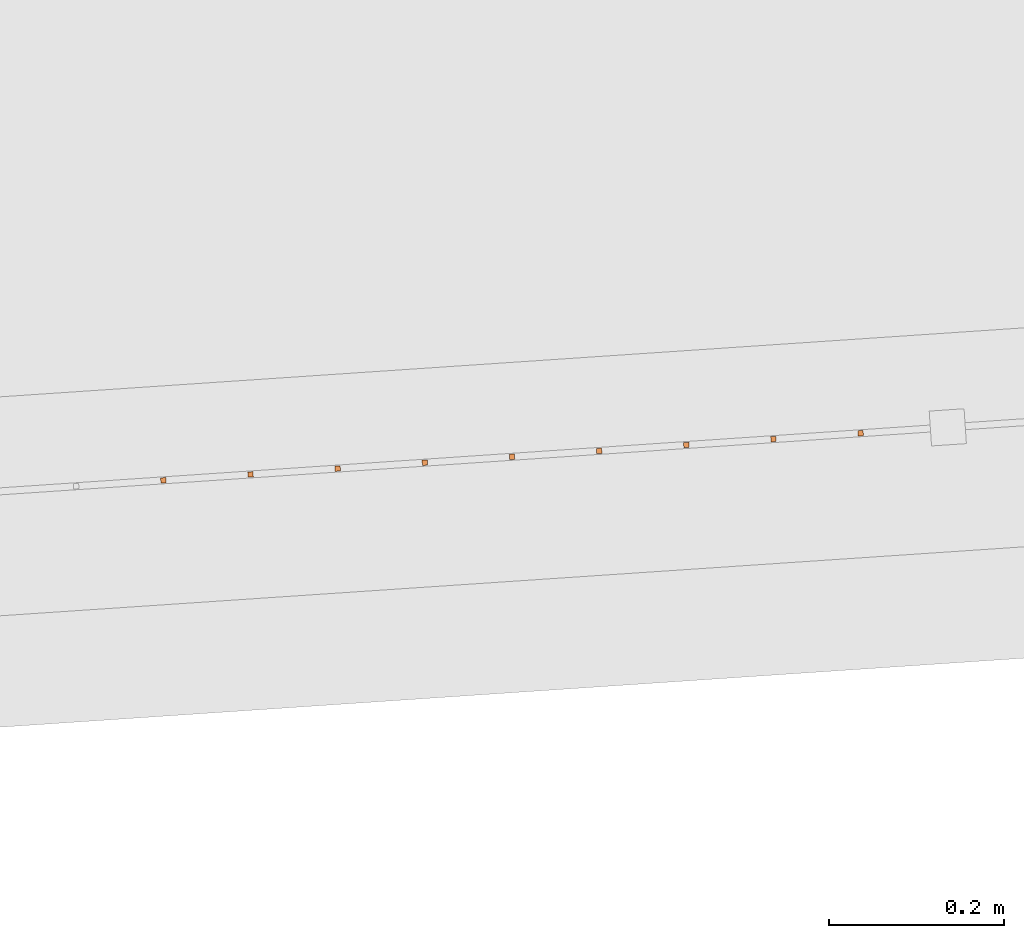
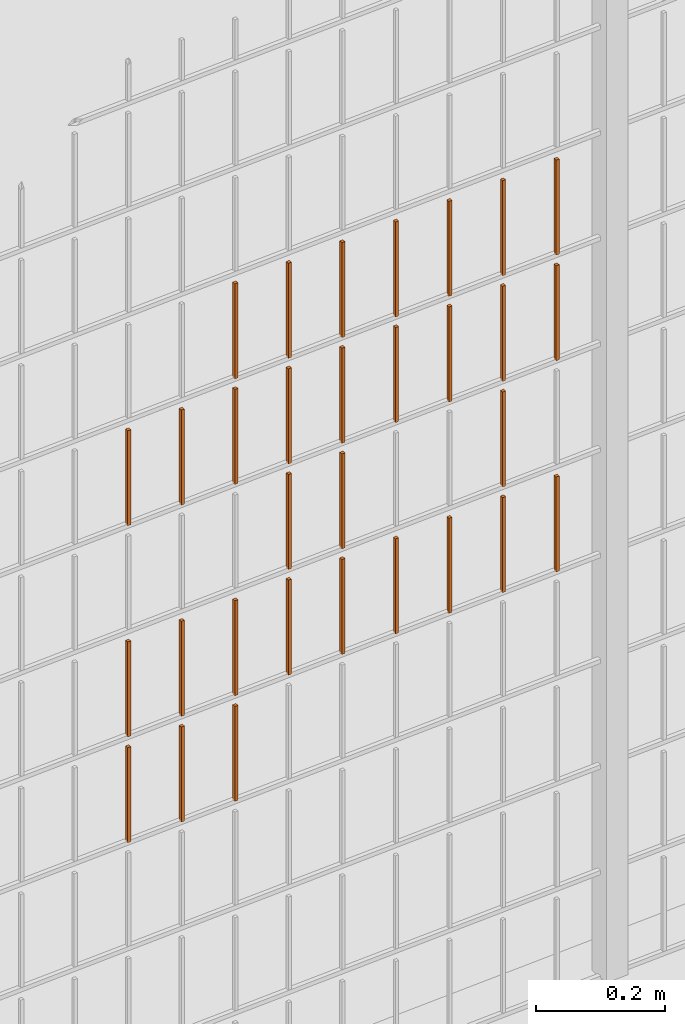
# One storey, part 290 of 1809: 31 proxies, 1 element without a shape of its own.
"""IFC2X3 building model written with IfcOpenShell, lengths in millimetres."""

from ifc_helpers import new_model, entity, si_unit, converted_unit, derived_unit, money_unit, direction, frame, origin_with_axes, place, context, subcontext, project, spatial, faceted_brep, source, transform, mapped, material, type_object, element, aggregate, save


model = new_model("IFC2X3")

# Units and contexts
model_context = context("Model", 3, precision=0.01, world=origin_with_axes(), true_north=direction((0.0, 1.0)))
body_context = subcontext(model_context, "Body", "Model", "MODEL_VIEW")
ifc_project = project(units=[si_unit("LENGTHUNIT", "METRE", prefix="MILLI"), si_unit("AREAUNIT", "SQUARE_METRE"), si_unit("VOLUMEUNIT", "CUBIC_METRE"), converted_unit("PLANEANGLEUNIT", "DEGREE", entity("IfcPlaneAngleMeasure", 0.0174532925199), si_unit("PLANEANGLEUNIT", "RADIAN"), dimensions=[0, 0, 0, 0, 0, 0, 0]), si_unit("SOLIDANGLEUNIT", "STERADIAN"), money_unit("EUR"), converted_unit("TIMEUNIT", "Year", entity("IfcTimeMeasure", 31556926.0), si_unit("TIMEUNIT", "SECOND"), dimensions=[0, 0, 1, 0, 0, 0, 0]), si_unit("MASSUNIT", "GRAM", prefix="KILO"), si_unit("THERMODYNAMICTEMPERATUREUNIT", "DEGREE_CELSIUS"), si_unit("LUMINOUSINTENSITYUNIT", "LUMEN"), si_unit("ENERGYUNIT", "JOULE", prefix="MEGA"), derived_unit("THERMALCONDUCTANCEUNIT", [(si_unit("POWERUNIT", "WATT"), 1), (si_unit("LENGTHUNIT", "METRE"), -1), (si_unit("THERMODYNAMICTEMPERATUREUNIT", "KELVIN"), -1)]), derived_unit("SPECIFICHEATCAPACITYUNIT", [(si_unit("ENERGYUNIT", "JOULE"), 1), (si_unit("MASSUNIT", "GRAM", prefix="KILO"), -1), (si_unit("THERMODYNAMICTEMPERATUREUNIT", "KELVIN"), -1)]), derived_unit("MASSDENSITYUNIT", [(si_unit("MASSUNIT", "GRAM", prefix="KILO"), 1), (si_unit("VOLUMEUNIT", "CUBIC_METRE"), -1)])], contexts=[model_context])

# Site, building, storey
site_placement = place(None, origin_with_axes())
site = spatial("IfcSite", under=ifc_project, at=site_placement, Name="Politse- ja Piirivalveameti ning Päästeameti ühishoone", CompositionType="ELEMENT")
building_placement = place(site_placement, origin_with_axes())
building = spatial("IfcBuilding", under=site, at=building_placement, Name="Politse- ja Piirivalveameti ning Päästeameti ühishoone", CompositionType="ELEMENT")
storey_placement = place(building_placement, origin_with_axes())
storey = spatial("IfcBuildingStorey", under=building, at=storey_placement, Name="Esimene korrus", CompositionType="ELEMENT", Elevation=0.0)

# Proxies
building_element_proxy_type_1 = type_object("IfcBuildingElementProxyType", Name="Railing Type", PredefinedType="NOTDEFINED")
proxy_1_placement = place(storey_placement, frame((89252.001212, -29183.4766571, 203.661247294), z_axis=(0.0, 0.0, 1.0), x_axis=(1.0, 0.0, 0.0)))
proxy_1 = element("IfcBuildingElementProxy", 1, at=proxy_1_placement, inside=storey, type_object=building_element_proxy_type_1, Name="PIIRDEAED")
ifc_material = material(Name="ET-03_Raud")
building_element_proxy_type_2 = type_object("IfcBuildingElementProxyType", Name="IfcBuildingElementProxy", PredefinedType="NOTDEFINED")
shared_shape_1 = source(origin_with_axes(), body_context, "Body", "Brep", [
    faceted_brep([(3.0, 3.0, -0.000752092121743), (-3.0, 3.0, -0.000752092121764), (-3.0, 3.0, 179.99926046), (3.0, 3.0, 179.99926046), (3.0, -3.0, 0.000752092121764), (-3.0, -3.0, 0.000752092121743), (-3.0, -3.0, 180.000764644), (3.0, -3.0, 180.000764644)], [[[0, 1, 2, 3]], [[0, 4, 5, 1]], [[1, 5, 6, 2]], [[3, 2, 6, 7]], [[4, 0, 3, 7]], [[5, 4, 7, 6]]]),
])
proxy_2_placement = place(proxy_1_placement, frame((-47917.5007464, -20534.4211029, 815.194220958), z_axis=(0.0, 0.0, 1.0), x_axis=(1.0, 0.0, 0.0)))
proxy_2 = element("IfcBuildingElementProxy", 2, at=proxy_2_placement, type_object=building_element_proxy_type_2, material=ifc_material, Name="BALUSTER - 001", context=body_context, shape_type="MappedRepresentation", body=[
    mapped(shared_shape_1, transform((0.0, 0.0, 0.0), x_axis=(-0.0673926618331, 0.997726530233, 0.0), y_axis=(-0.997726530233, -0.0673926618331, 0.0), z_axis=(0.0, 0.0, 1.0))),
])
shared_shape_2 = source(origin_with_axes(), body_context, "Body", "Brep", [
    faceted_brep([(3.0, 3.0, -0.000752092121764), (-3.0, 3.0, -0.000752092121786), (-3.0, 3.0, 179.99926046), (3.0, 3.0, 179.99926046), (3.0, -3.0, 0.000752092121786), (-3.0, -3.0, 0.000752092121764), (-3.0, -3.0, 180.000764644), (3.0, -3.0, 180.000764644)], [[[0, 1, 2, 3]], [[0, 4, 5, 1]], [[1, 5, 6, 2]], [[3, 2, 6, 7]], [[4, 0, 3, 7]], [[5, 4, 7, 6]]]),
])
proxy_3_placement = place(proxy_1_placement, frame((-47318.8648282, -20493.9855058, 815.344639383), z_axis=(0.0, 0.0, 1.0), x_axis=(1.0, 0.0, 0.0)))
proxy_3 = element("IfcBuildingElementProxy", 3, at=proxy_3_placement, type_object=building_element_proxy_type_2, material=ifc_material, Name="BALUSTER - 001", context=body_context, shape_type="MappedRepresentation", body=[
    mapped(shared_shape_2, transform((0.0, 0.0, 0.0), x_axis=(-0.0673926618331, 0.997726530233, 0.0), y_axis=(-0.997726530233, -0.0673926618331, 0.0), z_axis=(0.0, 0.0, 1.0))),
])
shared_shape_3 = source(origin_with_axes(), body_context, "Body", "Brep", [
    faceted_brep([(3.0, 3.0, -0.000752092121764), (-3.0, 3.0, -0.000752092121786), (-3.0, 3.0, 179.99926046), (3.0, 3.0, 179.99926046), (3.0, -3.0, 0.000752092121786), (-3.0, -3.0, 0.000752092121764), (-3.0, -3.0, 180.000764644), (3.0, -3.0, 180.000764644)], [[[0, 1, 2, 3]], [[0, 4, 5, 1]], [[1, 5, 6, 2]], [[3, 2, 6, 7]], [[4, 0, 3, 7]], [[5, 4, 7, 6]]]),
])
proxy_4_placement = place(proxy_1_placement, frame((-47318.8648282, -20493.9855058, 1215.34463938), z_axis=(0.0, 0.0, 1.0), x_axis=(1.0, 0.0, 0.0)))
proxy_4 = element("IfcBuildingElementProxy", 4, at=proxy_4_placement, type_object=building_element_proxy_type_2, material=ifc_material, Name="BALUSTER - 001", context=body_context, shape_type="MappedRepresentation", body=[
    mapped(shared_shape_3, transform((0.0, 0.0, 0.0), x_axis=(-0.0673926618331, 0.997726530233, 0.0), y_axis=(-0.997726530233, -0.0673926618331, 0.0), z_axis=(0.0, 0.0, 1.0))),
])
shared_shape_4 = source(origin_with_axes(), body_context, "Body", "Brep", [
    faceted_brep([(3.0, 3.0, -0.000752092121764), (-3.0, 3.0, -0.000752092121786), (-3.0, 3.0, 179.99926046), (3.0, 3.0, 179.99926046), (3.0, -3.0, 0.000752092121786), (-3.0, -3.0, 0.000752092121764), (-3.0, -3.0, 180.000764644), (3.0, -3.0, 180.000764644)], [[[0, 1, 2, 3]], [[0, 4, 5, 1]], [[1, 5, 6, 2]], [[3, 2, 6, 7]], [[4, 0, 3, 7]], [[5, 4, 7, 6]]]),
])
proxy_5_placement = place(proxy_1_placement, frame((-47418.6374813, -20500.724772, 815.319569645), z_axis=(0.0, 0.0, 1.0), x_axis=(1.0, 0.0, 0.0)))
proxy_5 = element("IfcBuildingElementProxy", 5, at=proxy_5_placement, type_object=building_element_proxy_type_2, material=ifc_material, Name="BALUSTER - 001", context=body_context, shape_type="MappedRepresentation", body=[
    mapped(shared_shape_4, transform((0.0, 0.0, 0.0), x_axis=(-0.0673926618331, 0.997726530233, 0.0), y_axis=(-0.997726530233, -0.0673926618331, 0.0), z_axis=(0.0, 0.0, 1.0))),
])
shared_shape_5 = source(origin_with_axes(), body_context, "Body", "Brep", [
    faceted_brep([(3.0, 3.0, -0.000752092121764), (-3.0, 3.0, -0.000752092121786), (-3.0, 3.0, 179.99926046), (3.0, 3.0, 179.99926046), (3.0, -3.0, 0.000752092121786), (-3.0, -3.0, 0.000752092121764), (-3.0, -3.0, 180.000764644), (3.0, -3.0, 180.000764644)], [[[0, 1, 2, 3]], [[0, 4, 5, 1]], [[1, 5, 6, 2]], [[3, 2, 6, 7]], [[4, 0, 3, 7]], [[5, 4, 7, 6]]]),
])
proxy_6_placement = place(proxy_1_placement, frame((-47318.8648282, -20493.9855058, 1415.34463938), z_axis=(0.0, 0.0, 1.0), x_axis=(1.0, 0.0, 0.0)))
proxy_6 = element("IfcBuildingElementProxy", 6, at=proxy_6_placement, type_object=building_element_proxy_type_2, material=ifc_material, Name="BALUSTER - 001", context=body_context, shape_type="MappedRepresentation", body=[
    mapped(shared_shape_5, transform((0.0, 0.0, 0.0), x_axis=(-0.0673926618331, 0.997726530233, 0.0), y_axis=(-0.997726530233, -0.0673926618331, 0.0), z_axis=(0.0, 0.0, 1.0))),
])
shared_shape_6 = source(origin_with_axes(), body_context, "Body", "Brep", [
    faceted_brep([(3.0, 3.0, -0.000752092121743), (-3.0, 3.0, -0.000752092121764), (-3.0, 3.0, 179.99926046), (3.0, 3.0, 179.99926046), (3.0, -3.0, 0.000752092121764), (-3.0, -3.0, 0.000752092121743), (-3.0, -3.0, 180.000764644), (3.0, -3.0, 180.000764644)], [[[0, 1, 2, 3]], [[0, 4, 5, 1]], [[1, 5, 6, 2]], [[3, 2, 6, 7]], [[4, 0, 3, 7]], [[5, 4, 7, 6]]]),
])
proxy_7_placement = place(proxy_1_placement, frame((-47917.5007464, -20534.4211029, 615.194220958), z_axis=(0.0, 0.0, 1.0), x_axis=(1.0, 0.0, 0.0)))
proxy_7 = element("IfcBuildingElementProxy", 7, at=proxy_7_placement, type_object=building_element_proxy_type_2, material=ifc_material, Name="BALUSTER - 001", context=body_context, shape_type="MappedRepresentation", body=[
    mapped(shared_shape_6, transform((0.0, 0.0, 0.0), x_axis=(-0.0673926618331, 0.997726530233, 0.0), y_axis=(-0.997726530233, -0.0673926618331, 0.0), z_axis=(0.0, 0.0, 1.0))),
])
shared_shape_7 = source(origin_with_axes(), body_context, "Body", "Brep", [
    faceted_brep([(3.0, 3.0, -0.000752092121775), (-3.0, 3.0, -0.000752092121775), (-3.0, 3.0, 179.99926046), (3.0, 3.0, 179.99926046), (3.0, -3.0, 0.000752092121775), (-3.0, -3.0, 0.000752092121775), (-3.0, -3.0, 180.000764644), (3.0, -3.0, 180.000764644)], [[[0, 1, 2, 3]], [[0, 4, 5, 1]], [[1, 5, 6, 2]], [[3, 2, 6, 7]], [[4, 0, 3, 7]], [[5, 4, 7, 6]]]),
])
proxy_8_placement = place(proxy_1_placement, frame((-47418.6374813, -20500.724772, 1415.31956965), z_axis=(0.0, 0.0, 1.0), x_axis=(1.0, 0.0, 0.0)))
proxy_8 = element("IfcBuildingElementProxy", 8, at=proxy_8_placement, type_object=building_element_proxy_type_2, material=ifc_material, Name="BALUSTER - 001", context=body_context, shape_type="MappedRepresentation", body=[
    mapped(shared_shape_7, transform((0.0, 0.0, 0.0), x_axis=(-0.0673926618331, 0.997726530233, 0.0), y_axis=(-0.997726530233, -0.0673926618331, 0.0), z_axis=(0.0, 0.0, 1.0))),
])
shared_shape_8 = source(origin_with_axes(), body_context, "Body", "Brep", [
    faceted_brep([(3.0, 3.0, -0.000752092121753), (-3.0, 3.0, -0.000752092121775), (-3.0, 3.0, 179.99926046), (3.0, 3.0, 179.99926046), (3.0, -3.0, 0.000752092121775), (-3.0, -3.0, 0.000752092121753), (-3.0, -3.0, 180.000764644), (3.0, -3.0, 180.000764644)], [[[0, 1, 2, 3]], [[0, 4, 5, 1]], [[1, 5, 6, 2]], [[3, 2, 6, 7]], [[4, 0, 3, 7]], [[5, 4, 7, 6]]]),
])
proxy_9_placement = place(proxy_1_placement, frame((-48117.0460524, -20547.8996353, 615.144081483), z_axis=(0.0, 0.0, 1.0), x_axis=(1.0, 0.0, 0.0)))
proxy_9 = element("IfcBuildingElementProxy", 9, at=proxy_9_placement, type_object=building_element_proxy_type_2, material=ifc_material, Name="BALUSTER - 001", context=body_context, shape_type="MappedRepresentation", body=[
    mapped(shared_shape_8, transform((0.0, 0.0, 0.0), x_axis=(-0.0673926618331, 0.997726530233, 0.0), y_axis=(-0.997726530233, -0.0673926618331, 0.0), z_axis=(0.0, 0.0, 1.0))),
])
shared_shape_9 = source(origin_with_axes(), body_context, "Body", "Brep", [
    faceted_brep([(3.0, 3.0, -0.000752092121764), (-3.0, 3.0, -0.000752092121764), (-3.0, 3.0, 179.99926046), (3.0, 3.0, 179.99926046), (3.0, -3.0, 0.000752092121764), (-3.0, -3.0, 0.000752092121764), (-3.0, -3.0, 180.000764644), (3.0, -3.0, 180.000764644)], [[[0, 1, 2, 3]], [[0, 4, 5, 1]], [[1, 5, 6, 2]], [[3, 2, 6, 7]], [[4, 0, 3, 7]], [[5, 4, 7, 6]]]),
])
proxy_10_placement = place(proxy_1_placement, frame((-47717.9554403, -20520.9425705, 815.244360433), z_axis=(0.0, 0.0, 1.0), x_axis=(1.0, 0.0, 0.0)))
proxy_10 = element("IfcBuildingElementProxy", 10, at=proxy_10_placement, type_object=building_element_proxy_type_2, material=ifc_material, Name="BALUSTER - 001", context=body_context, shape_type="MappedRepresentation", body=[
    mapped(shared_shape_9, transform((0.0, 0.0, 0.0), x_axis=(-0.0673926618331, 0.997726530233, 0.0), y_axis=(-0.997726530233, -0.0673926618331, 0.0), z_axis=(0.0, 0.0, 1.0))),
])
shared_shape_10 = source(origin_with_axes(), body_context, "Body", "Brep", [
    faceted_brep([(3.0, 3.0, -0.000752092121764), (-3.0, 3.0, -0.000752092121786), (-3.0, 3.0, 179.99926046), (3.0, 3.0, 179.99926046), (3.0, -3.0, 0.000752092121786), (-3.0, -3.0, 0.000752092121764), (-3.0, -3.0, 180.000764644), (3.0, -3.0, 180.000764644)], [[[0, 1, 2, 3]], [[0, 4, 5, 1]], [[1, 5, 6, 2]], [[3, 2, 6, 7]], [[4, 0, 3, 7]], [[5, 4, 7, 6]]]),
])
proxy_11_placement = place(proxy_1_placement, frame((-48117.0460524, -20547.8996353, 1215.14408148), z_axis=(0.0, 0.0, 1.0), x_axis=(1.0, 0.0, 0.0)))
proxy_11 = element("IfcBuildingElementProxy", 11, at=proxy_11_placement, type_object=building_element_proxy_type_2, material=ifc_material, Name="BALUSTER - 001", context=body_context, shape_type="MappedRepresentation", body=[
    mapped(shared_shape_10, transform((0.0, 0.0, 0.0), x_axis=(-0.0673926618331, 0.997726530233, 0.0), y_axis=(-0.997726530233, -0.0673926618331, 0.0), z_axis=(0.0, 0.0, 1.0))),
])
shared_shape_11 = source(origin_with_axes(), body_context, "Body", "Brep", [
    faceted_brep([(3.0, 3.0, -0.000752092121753), (-3.0, 3.0, -0.000752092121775), (-3.0, 3.0, 179.99926046), (3.0, 3.0, 179.99926046), (3.0, -3.0, 0.000752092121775), (-3.0, -3.0, 0.000752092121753), (-3.0, -3.0, 180.000764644), (3.0, -3.0, 180.000764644)], [[[0, 1, 2, 3]], [[0, 4, 5, 1]], [[1, 5, 6, 2]], [[3, 2, 6, 7]], [[4, 0, 3, 7]], [[5, 4, 7, 6]]]),
])
proxy_12_placement = place(proxy_1_placement, frame((-48117.0460524, -20547.8996353, 815.144081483), z_axis=(0.0, 0.0, 1.0), x_axis=(1.0, 0.0, 0.0)))
proxy_12 = element("IfcBuildingElementProxy", 12, at=proxy_12_placement, type_object=building_element_proxy_type_2, material=ifc_material, Name="BALUSTER - 001", context=body_context, shape_type="MappedRepresentation", body=[
    mapped(shared_shape_11, transform((0.0, 0.0, 0.0), x_axis=(-0.0673926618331, 0.997726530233, 0.0), y_axis=(-0.997726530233, -0.0673926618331, 0.0), z_axis=(0.0, 0.0, 1.0))),
])
shared_shape_12 = source(origin_with_axes(), body_context, "Body", "Brep", [
    faceted_brep([(3.0, 3.0, -0.000752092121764), (-3.0, 3.0, -0.000752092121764), (-3.0, 3.0, 179.99926046), (3.0, 3.0, 179.99926046), (3.0, -3.0, 0.000752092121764), (-3.0, -3.0, 0.000752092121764), (-3.0, -3.0, 180.000764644), (3.0, -3.0, 180.000764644)], [[[0, 1, 2, 3]], [[0, 4, 5, 1]], [[1, 5, 6, 2]], [[3, 2, 6, 7]], [[4, 0, 3, 7]], [[5, 4, 7, 6]]]),
])
proxy_13_placement = place(proxy_1_placement, frame((-47717.9554403, -20520.9425705, 1215.24436043), z_axis=(0.0, 0.0, 1.0), x_axis=(1.0, 0.0, 0.0)))
proxy_13 = element("IfcBuildingElementProxy", 13, at=proxy_13_placement, type_object=building_element_proxy_type_2, material=ifc_material, Name="BALUSTER - 001", context=body_context, shape_type="MappedRepresentation", body=[
    mapped(shared_shape_12, transform((0.0, 0.0, 0.0), x_axis=(-0.0673926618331, 0.997726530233, 0.0), y_axis=(-0.997726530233, -0.0673926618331, 0.0), z_axis=(0.0, 0.0, 1.0))),
])
shared_shape_13 = source(origin_with_axes(), body_context, "Body", "Brep", [
    faceted_brep([(3.0, 3.0, -0.000752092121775), (-3.0, 3.0, -0.000752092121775), (-3.0, 3.0, 179.99926046), (3.0, 3.0, 179.99926046), (3.0, -3.0, 0.000752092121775), (-3.0, -3.0, 0.000752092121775), (-3.0, -3.0, 180.000764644), (3.0, -3.0, 180.000764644)], [[[0, 1, 2, 3]], [[0, 4, 5, 1]], [[1, 5, 6, 2]], [[3, 2, 6, 7]], [[4, 0, 3, 7]], [[5, 4, 7, 6]]]),
])
proxy_14_placement = place(proxy_1_placement, frame((-47418.6374813, -20500.724772, 1215.31956965), z_axis=(0.0, 0.0, 1.0), x_axis=(1.0, 0.0, 0.0)))
proxy_14 = element("IfcBuildingElementProxy", 14, at=proxy_14_placement, type_object=building_element_proxy_type_2, material=ifc_material, Name="BALUSTER - 001", context=body_context, shape_type="MappedRepresentation", body=[
    mapped(shared_shape_13, transform((0.0, 0.0, 0.0), x_axis=(-0.0673926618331, 0.997726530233, 0.0), y_axis=(-0.997726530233, -0.0673926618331, 0.0), z_axis=(0.0, 0.0, 1.0))),
])
shared_shape_14 = source(origin_with_axes(), body_context, "Body", "Brep", [
    faceted_brep([(3.0, 3.0, -0.000752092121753), (-3.0, 3.0, -0.000752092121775), (-3.0, 3.0, 179.99926046), (3.0, 3.0, 179.99926046), (3.0, -3.0, 0.000752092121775), (-3.0, -3.0, 0.000752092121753), (-3.0, -3.0, 180.000764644), (3.0, -3.0, 180.000764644)], [[[0, 1, 2, 3]], [[0, 4, 5, 1]], [[1, 5, 6, 2]], [[3, 2, 6, 7]], [[4, 0, 3, 7]], [[5, 4, 7, 6]]]),
])
proxy_15_placement = place(proxy_1_placement, frame((-48017.2733994, -20541.1603691, 1215.16915122), z_axis=(0.0, 0.0, 1.0), x_axis=(1.0, 0.0, 0.0)))
proxy_15 = element("IfcBuildingElementProxy", 15, at=proxy_15_placement, type_object=building_element_proxy_type_2, material=ifc_material, Name="BALUSTER - 001", context=body_context, shape_type="MappedRepresentation", body=[
    mapped(shared_shape_14, transform((0.0, 0.0, 0.0), x_axis=(-0.0673926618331, 0.997726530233, 0.0), y_axis=(-0.997726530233, -0.0673926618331, 0.0), z_axis=(0.0, 0.0, 1.0))),
])
shared_shape_15 = source(origin_with_axes(), body_context, "Body", "Brep", [
    faceted_brep([(3.0, 3.0, -0.000752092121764), (-3.0, 3.0, -0.000752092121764), (-3.0, 3.0, 179.99926046), (3.0, 3.0, 179.99926046), (3.0, -3.0, 0.000752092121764), (-3.0, -3.0, 0.000752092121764), (-3.0, -3.0, 180.000764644), (3.0, -3.0, 180.000764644)], [[[0, 1, 2, 3]], [[0, 4, 5, 1]], [[1, 5, 6, 2]], [[3, 2, 6, 7]], [[4, 0, 3, 7]], [[5, 4, 7, 6]]]),
])
proxy_16_placement = place(proxy_1_placement, frame((-47817.7280933, -20527.6818367, 815.219290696), z_axis=(0.0, 0.0, 1.0), x_axis=(1.0, 0.0, 0.0)))
proxy_16 = element("IfcBuildingElementProxy", 16, at=proxy_16_placement, type_object=building_element_proxy_type_2, material=ifc_material, Name="BALUSTER - 001", context=body_context, shape_type="MappedRepresentation", body=[
    mapped(shared_shape_15, transform((0.0, 0.0, 0.0), x_axis=(-0.0673926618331, 0.997726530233, 0.0), y_axis=(-0.997726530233, -0.0673926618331, 0.0), z_axis=(0.0, 0.0, 1.0))),
])
shared_shape_16 = source(origin_with_axes(), body_context, "Body", "Brep", [
    faceted_brep([(3.0, 3.0, -0.000752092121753), (-3.0, 3.0, -0.000752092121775), (-3.0, 3.0, 179.99926046), (3.0, 3.0, 179.99926046), (3.0, -3.0, 0.000752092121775), (-3.0, -3.0, 0.000752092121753), (-3.0, -3.0, 180.000764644), (3.0, -3.0, 180.000764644)], [[[0, 1, 2, 3]], [[0, 4, 5, 1]], [[1, 5, 6, 2]], [[3, 2, 6, 7]], [[4, 0, 3, 7]], [[5, 4, 7, 6]]]),
])
proxy_17_placement = place(proxy_1_placement, frame((-47518.4101343, -20507.4640382, 815.294499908), z_axis=(0.0, 0.0, 1.0), x_axis=(1.0, 0.0, 0.0)))
proxy_17 = element("IfcBuildingElementProxy", 17, at=proxy_17_placement, type_object=building_element_proxy_type_2, material=ifc_material, Name="BALUSTER - 001", context=body_context, shape_type="MappedRepresentation", body=[
    mapped(shared_shape_16, transform((0.0, 0.0, 0.0), x_axis=(-0.0673926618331, 0.997726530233, 0.0), y_axis=(-0.997726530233, -0.0673926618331, 0.0), z_axis=(0.0, 0.0, 1.0))),
])
proxy_18_placement = place(proxy_1_placement, frame((-47817.7280933, -20527.6818367, 1215.2192907), z_axis=(0.0, 0.0, 1.0), x_axis=(1.0, 0.0, 0.0)))
proxy_18 = element("IfcBuildingElementProxy", 18, at=proxy_18_placement, type_object=building_element_proxy_type_2, material=ifc_material, Name="BALUSTER - 001", context=body_context, shape_type="MappedRepresentation", body=[
    mapped(shared_shape_16, transform((0.0, 0.0, 0.0), x_axis=(-0.0673926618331, 0.997726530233, 0.0), y_axis=(-0.997726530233, -0.0673926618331, 0.0), z_axis=(0.0, 0.0, 1.0))),
])
shared_shape_17 = source(origin_with_axes(), body_context, "Body", "Brep", [
    faceted_brep([(3.0, 3.0, -0.000752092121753), (-3.0, 3.0, -0.000752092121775), (-3.0, 3.0, 179.99926046), (3.0, 3.0, 179.99926046), (3.0, -3.0, 0.000752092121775), (-3.0, -3.0, 0.000752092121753), (-3.0, -3.0, 180.000764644), (3.0, -3.0, 180.000764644)], [[[0, 1, 2, 3]], [[0, 4, 5, 1]], [[1, 5, 6, 2]], [[3, 2, 6, 7]], [[4, 0, 3, 7]], [[5, 4, 7, 6]]]),
])
proxy_19_placement = place(proxy_1_placement, frame((-48017.2733994, -20541.1603691, 615.169151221), z_axis=(0.0, 0.0, 1.0), x_axis=(1.0, 0.0, 0.0)))
proxy_19 = element("IfcBuildingElementProxy", 19, at=proxy_19_placement, type_object=building_element_proxy_type_2, material=ifc_material, Name="BALUSTER - 001", context=body_context, shape_type="MappedRepresentation", body=[
    mapped(shared_shape_17, transform((0.0, 0.0, 0.0), x_axis=(-0.0673926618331, 0.997726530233, 0.0), y_axis=(-0.997726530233, -0.0673926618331, 0.0), z_axis=(0.0, 0.0, 1.0))),
])
shared_shape_18 = source(origin_with_axes(), body_context, "Body", "Brep", [
    faceted_brep([(3.0, 3.0, -0.000752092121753), (-3.0, 3.0, -0.000752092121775), (-3.0, 3.0, 179.99926046), (3.0, 3.0, 179.99926046), (3.0, -3.0, 0.000752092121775), (-3.0, -3.0, 0.000752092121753), (-3.0, -3.0, 180.000764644), (3.0, -3.0, 180.000764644)], [[[0, 1, 2, 3]], [[0, 4, 5, 1]], [[1, 5, 6, 2]], [[3, 2, 6, 7]], [[4, 0, 3, 7]], [[5, 4, 7, 6]]]),
])
proxy_20_placement = place(proxy_1_placement, frame((-47618.1827873, -20514.2033043, 815.26943017), z_axis=(0.0, 0.0, 1.0), x_axis=(1.0, 0.0, 0.0)))
proxy_20 = element("IfcBuildingElementProxy", 20, at=proxy_20_placement, type_object=building_element_proxy_type_2, material=ifc_material, Name="BALUSTER - 001", context=body_context, shape_type="MappedRepresentation", body=[
    mapped(shared_shape_18, transform((0.0, 0.0, 0.0), x_axis=(-0.0673926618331, 0.997726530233, 0.0), y_axis=(-0.997726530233, -0.0673926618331, 0.0), z_axis=(0.0, 0.0, 1.0))),
])
shared_shape_19 = source(origin_with_axes(), body_context, "Body", "Brep", [
    faceted_brep([(3.0, 3.0, -0.000752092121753), (-3.0, 3.0, -0.000752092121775), (-3.0, 3.0, 179.99926046), (3.0, 3.0, 179.99926046), (3.0, -3.0, 0.000752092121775), (-3.0, -3.0, 0.000752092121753), (-3.0, -3.0, 180.000764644), (3.0, -3.0, 180.000764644)], [[[0, 1, 2, 3]], [[0, 4, 5, 1]], [[1, 5, 6, 2]], [[3, 2, 6, 7]], [[4, 0, 3, 7]], [[5, 4, 7, 6]]]),
])
proxy_21_placement = place(proxy_1_placement, frame((-47817.7280933, -20527.6818367, 1415.2192907), z_axis=(0.0, 0.0, 1.0), x_axis=(1.0, 0.0, 0.0)))
proxy_21 = element("IfcBuildingElementProxy", 21, at=proxy_21_placement, type_object=building_element_proxy_type_2, material=ifc_material, Name="BALUSTER - 001", context=body_context, shape_type="MappedRepresentation", body=[
    mapped(shared_shape_19, transform((0.0, 0.0, 0.0), x_axis=(-0.0673926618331, 0.997726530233, 0.0), y_axis=(-0.997726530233, -0.0673926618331, 0.0), z_axis=(0.0, 0.0, 1.0))),
])
shared_shape_20 = source(origin_with_axes(), body_context, "Body", "Brep", [
    faceted_brep([(3.0, 3.0, -0.000752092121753), (-3.0, 3.0, -0.000752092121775), (-3.0, 3.0, 179.99926046), (3.0, 3.0, 179.99926046), (3.0, -3.0, 0.000752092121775), (-3.0, -3.0, 0.000752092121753), (-3.0, -3.0, 180.000764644), (3.0, -3.0, 180.000764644)], [[[0, 1, 2, 3]], [[0, 4, 5, 1]], [[1, 5, 6, 2]], [[3, 2, 6, 7]], [[4, 0, 3, 7]], [[5, 4, 7, 6]]]),
])
proxy_22_placement = place(proxy_1_placement, frame((-47917.5007464, -20534.4211029, 1215.19422096), z_axis=(0.0, 0.0, 1.0), x_axis=(1.0, 0.0, 0.0)))
proxy_22 = element("IfcBuildingElementProxy", 22, at=proxy_22_placement, type_object=building_element_proxy_type_2, material=ifc_material, Name="BALUSTER - 001", context=body_context, shape_type="MappedRepresentation", body=[
    mapped(shared_shape_20, transform((0.0, 0.0, 0.0), x_axis=(-0.0673926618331, 0.997726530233, 0.0), y_axis=(-0.997726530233, -0.0673926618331, 0.0), z_axis=(0.0, 0.0, 1.0))),
])
shared_shape_21 = source(origin_with_axes(), body_context, "Body", "Brep", [
    faceted_brep([(3.0, 3.0, -0.000752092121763), (-3.0, 3.0, -0.000752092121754), (-3.00000000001, 2.99999999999, 179.99926046), (2.99999999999, 2.99999999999, 179.99926046), (3.0, -3.0, 0.000752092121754), (-3.0, -3.0, 0.000752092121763), (-3.00000000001, -3.00000000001, 180.000764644), (2.99999999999, -3.00000000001, 180.000764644)], [[[0, 1, 2, 3]], [[0, 4, 5, 1]], [[1, 5, 6, 2]], [[3, 2, 6, 7]], [[4, 0, 3, 7]], [[5, 4, 7, 6]]]),
])
proxy_23_placement = place(proxy_1_placement, frame((-47418.6374813, -20500.724772, 1015.31956965), z_axis=(0.0, 0.0, 1.0), x_axis=(1.0, 0.0, 0.0)))
proxy_23 = element("IfcBuildingElementProxy", 23, at=proxy_23_placement, type_object=building_element_proxy_type_2, material=ifc_material, Name="BALUSTER - 001", context=body_context, shape_type="MappedRepresentation", body=[
    mapped(shared_shape_21, transform((0.0, 0.0, 0.0), x_axis=(-0.0673926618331, 0.997726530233, 0.0), y_axis=(-0.997726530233, -0.0673926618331, 0.0), z_axis=(0.0, 0.0, 1.0))),
])
shared_shape_22 = source(origin_with_axes(), body_context, "Body", "Brep", [
    faceted_brep([(3.0, 3.0, -0.000752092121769), (-3.0, 3.0, -0.00075209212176), (-3.00000000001, 3.0, 179.99926046), (2.99999999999, 3.0, 179.99926046), (3.0, -3.0, 0.00075209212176), (-3.0, -3.0, 0.000752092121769), (-3.00000000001, -3.0, 180.000764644), (2.99999999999, -3.0, 180.000764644)], [[[0, 1, 2, 3]], [[0, 4, 5, 1]], [[1, 5, 6, 2]], [[3, 2, 6, 7]], [[4, 0, 3, 7]], [[5, 4, 7, 6]]]),
])
proxy_24_placement = place(proxy_1_placement, frame((-47817.7280933, -20527.6818367, 1015.2192907), z_axis=(0.0, 0.0, 1.0), x_axis=(1.0, 0.0, 0.0)))
proxy_24 = element("IfcBuildingElementProxy", 24, at=proxy_24_placement, type_object=building_element_proxy_type_2, material=ifc_material, Name="BALUSTER - 001", context=body_context, shape_type="MappedRepresentation", body=[
    mapped(shared_shape_22, transform((0.0, 0.0, 0.0), x_axis=(-0.0673926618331, 0.997726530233, 0.0), y_axis=(-0.997726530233, -0.0673926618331, 0.0), z_axis=(0.0, 0.0, 1.0))),
])
shared_shape_23 = source(origin_with_axes(), body_context, "Body", "Brep", [
    faceted_brep([(3.0, 3.0, -0.000752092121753), (-3.0, 3.0, -0.000752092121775), (-3.0, 3.0, 179.99926046), (3.0, 3.0, 179.99926046), (3.0, -3.0, 0.000752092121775), (-3.0, -3.0, 0.000752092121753), (-3.0, -3.0, 180.000764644), (3.0, -3.0, 180.000764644)], [[[0, 1, 2, 3]], [[0, 4, 5, 1]], [[1, 5, 6, 2]], [[3, 2, 6, 7]], [[4, 0, 3, 7]], [[5, 4, 7, 6]]]),
])
proxy_25_placement = place(proxy_1_placement, frame((-47917.5007464, -20534.4211029, 1415.19422096), z_axis=(0.0, 0.0, 1.0), x_axis=(1.0, 0.0, 0.0)))
proxy_25 = element("IfcBuildingElementProxy", 25, at=proxy_25_placement, type_object=building_element_proxy_type_2, material=ifc_material, Name="BALUSTER - 001", context=body_context, shape_type="MappedRepresentation", body=[
    mapped(shared_shape_23, transform((0.0, 0.0, 0.0), x_axis=(-0.0673926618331, 0.997726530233, 0.0), y_axis=(-0.997726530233, -0.0673926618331, 0.0), z_axis=(0.0, 0.0, 1.0))),
])
shared_shape_24 = source(origin_with_axes(), body_context, "Body", "Brep", [
    faceted_brep([(3.0, 3.0, -0.000752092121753), (-3.0, 3.0, -0.000752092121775), (-3.0, 3.0, 179.99926046), (3.0, 3.0, 179.99926046), (3.0, -3.0, 0.000752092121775), (-3.0, -3.0, 0.000752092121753), (-3.0, -3.0, 180.000764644), (3.0, -3.0, 180.000764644)], [[[0, 1, 2, 3]], [[0, 4, 5, 1]], [[1, 5, 6, 2]], [[3, 2, 6, 7]], [[4, 0, 3, 7]], [[5, 4, 7, 6]]]),
])
proxy_26_placement = place(proxy_1_placement, frame((-48017.2733994, -20541.1603691, 815.169151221), z_axis=(0.0, 0.0, 1.0), x_axis=(1.0, 0.0, 0.0)))
proxy_26 = element("IfcBuildingElementProxy", 26, at=proxy_26_placement, type_object=building_element_proxy_type_2, material=ifc_material, Name="BALUSTER - 001", context=body_context, shape_type="MappedRepresentation", body=[
    mapped(shared_shape_24, transform((0.0, 0.0, 0.0), x_axis=(-0.0673926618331, 0.997726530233, 0.0), y_axis=(-0.997726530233, -0.0673926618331, 0.0), z_axis=(0.0, 0.0, 1.0))),
])
shared_shape_25 = source(origin_with_axes(), body_context, "Body", "Brep", [
    faceted_brep([(3.0, 3.0, -0.000752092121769), (-3.0, 3.0, -0.00075209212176), (-3.00000000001, 3.0, 179.99926046), (2.99999999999, 3.0, 179.99926046), (3.0, -3.0, 0.00075209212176), (-3.0, -3.0, 0.000752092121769), (-3.00000000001, -3.0, 180.000764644), (2.99999999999, -3.0, 180.000764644)], [[[0, 1, 2, 3]], [[0, 4, 5, 1]], [[1, 5, 6, 2]], [[3, 2, 6, 7]], [[4, 0, 3, 7]], [[5, 4, 7, 6]]]),
])
proxy_27_placement = place(proxy_1_placement, frame((-47717.9554403, -20520.9425705, 1015.24436043), z_axis=(0.0, 0.0, 1.0), x_axis=(1.0, 0.0, 0.0)))
proxy_27 = element("IfcBuildingElementProxy", 27, at=proxy_27_placement, type_object=building_element_proxy_type_2, material=ifc_material, Name="BALUSTER - 001", context=body_context, shape_type="MappedRepresentation", body=[
    mapped(shared_shape_25, transform((0.0, 0.0, 0.0), x_axis=(-0.0673926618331, 0.997726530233, 0.0), y_axis=(-0.997726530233, -0.0673926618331, 0.0), z_axis=(0.0, 0.0, 1.0))),
])
shared_shape_26 = source(origin_with_axes(), body_context, "Body", "Brep", [
    faceted_brep([(3.0, 3.0, -0.000752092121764), (-3.0, 3.0, -0.000752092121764), (-3.0, 3.0, 179.99926046), (3.0, 3.0, 179.99926046), (3.0, -3.0, 0.000752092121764), (-3.0, -3.0, 0.000752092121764), (-3.0, -3.0, 180.000764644), (3.0, -3.0, 180.000764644)], [[[0, 1, 2, 3]], [[0, 4, 5, 1]], [[1, 5, 6, 2]], [[3, 2, 6, 7]], [[4, 0, 3, 7]], [[5, 4, 7, 6]]]),
])
proxy_28_placement = place(proxy_1_placement, frame((-47518.4101343, -20507.4640382, 1215.29449991), z_axis=(0.0, 0.0, 1.0), x_axis=(1.0, 0.0, 0.0)))
proxy_28 = element("IfcBuildingElementProxy", 28, at=proxy_28_placement, type_object=building_element_proxy_type_2, material=ifc_material, Name="BALUSTER - 001", context=body_context, shape_type="MappedRepresentation", body=[
    mapped(shared_shape_26, transform((0.0, 0.0, 0.0), x_axis=(-0.0673926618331, 0.997726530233, 0.0), y_axis=(-0.997726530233, -0.0673926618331, 0.0), z_axis=(0.0, 0.0, 1.0))),
])
shared_shape_27 = source(origin_with_axes(), body_context, "Body", "Brep", [
    faceted_brep([(3.0, 3.0, -0.000752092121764), (-3.0, 3.0, -0.000752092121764), (-3.0, 3.0, 179.99926046), (3.0, 3.0, 179.99926046), (3.0, -3.0, 0.000752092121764), (-3.0, -3.0, 0.000752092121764), (-3.0, -3.0, 180.000764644), (3.0, -3.0, 180.000764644)], [[[0, 1, 2, 3]], [[0, 4, 5, 1]], [[1, 5, 6, 2]], [[3, 2, 6, 7]], [[4, 0, 3, 7]], [[5, 4, 7, 6]]]),
])
proxy_29_placement = place(proxy_1_placement, frame((-47518.4101343, -20507.4640382, 1415.29449991), z_axis=(0.0, 0.0, 1.0), x_axis=(1.0, 0.0, 0.0)))
proxy_29 = element("IfcBuildingElementProxy", 29, at=proxy_29_placement, type_object=building_element_proxy_type_2, material=ifc_material, Name="BALUSTER - 001", context=body_context, shape_type="MappedRepresentation", body=[
    mapped(shared_shape_27, transform((0.0, 0.0, 0.0), x_axis=(-0.0673926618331, 0.997726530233, 0.0), y_axis=(-0.997726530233, -0.0673926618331, 0.0), z_axis=(0.0, 0.0, 1.0))),
])
shared_shape_28 = source(origin_with_axes(), body_context, "Body", "Brep", [
    faceted_brep([(3.0, 3.0, -0.000752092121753), (-3.0, 3.0, -0.000752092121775), (-3.0, 3.0, 179.99926046), (3.0, 3.0, 179.99926046), (3.0, -3.0, 0.000752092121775), (-3.0, -3.0, 0.000752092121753), (-3.0, -3.0, 180.000764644), (3.0, -3.0, 180.000764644)], [[[0, 1, 2, 3]], [[0, 4, 5, 1]], [[1, 5, 6, 2]], [[3, 2, 6, 7]], [[4, 0, 3, 7]], [[5, 4, 7, 6]]]),
])
proxy_30_placement = place(proxy_1_placement, frame((-47618.1827873, -20514.2033043, 1215.26943017), z_axis=(0.0, 0.0, 1.0), x_axis=(1.0, 0.0, 0.0)))
proxy_30 = element("IfcBuildingElementProxy", 30, at=proxy_30_placement, type_object=building_element_proxy_type_2, material=ifc_material, Name="BALUSTER - 001", context=body_context, shape_type="MappedRepresentation", body=[
    mapped(shared_shape_28, transform((0.0, 0.0, 0.0), x_axis=(-0.0673926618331, 0.997726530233, 0.0), y_axis=(-0.997726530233, -0.0673926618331, 0.0), z_axis=(0.0, 0.0, 1.0))),
])
shared_shape_29 = source(origin_with_axes(), body_context, "Body", "Brep", [
    faceted_brep([(3.0, 3.0, -0.000752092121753), (-3.0, 3.0, -0.000752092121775), (-3.0, 3.0, 179.99926046), (3.0, 3.0, 179.99926046), (3.0, -3.0, 0.000752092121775), (-3.0, -3.0, 0.000752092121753), (-3.0, -3.0, 180.000764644), (3.0, -3.0, 180.000764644)], [[[0, 1, 2, 3]], [[0, 4, 5, 1]], [[1, 5, 6, 2]], [[3, 2, 6, 7]], [[4, 0, 3, 7]], [[5, 4, 7, 6]]]),
])
proxy_31_placement = place(proxy_1_placement, frame((-47618.1827873, -20514.2033043, 1415.26943017), z_axis=(0.0, 0.0, 1.0), x_axis=(1.0, 0.0, 0.0)))
proxy_31 = element("IfcBuildingElementProxy", 31, at=proxy_31_placement, type_object=building_element_proxy_type_2, material=ifc_material, Name="BALUSTER - 001", context=body_context, shape_type="MappedRepresentation", body=[
    mapped(shared_shape_29, transform((0.0, 0.0, 0.0), x_axis=(-0.0673926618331, 0.997726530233, 0.0), y_axis=(-0.997726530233, -0.0673926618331, 0.0), z_axis=(0.0, 0.0, 1.0))),
])
shared_shape_30 = source(origin_with_axes(), body_context, "Body", "Brep", [
    faceted_brep([(3.0, 3.0, -0.000752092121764), (-3.0, 3.0, -0.000752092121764), (-3.0, 3.0, 179.99926046), (3.0, 3.0, 179.99926046), (3.0, -3.0, 0.000752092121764), (-3.0, -3.0, 0.000752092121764), (-3.0, -3.0, 180.000764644), (3.0, -3.0, 180.000764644)], [[[0, 1, 2, 3]], [[0, 4, 5, 1]], [[1, 5, 6, 2]], [[3, 2, 6, 7]], [[4, 0, 3, 7]], [[5, 4, 7, 6]]]),
])
proxy_32_placement = place(proxy_1_placement, frame((-47717.9554403, -20520.9425705, 1415.24436043), z_axis=(0.0, 0.0, 1.0), x_axis=(1.0, 0.0, 0.0)))
proxy_32 = element("IfcBuildingElementProxy", 32, at=proxy_32_placement, type_object=building_element_proxy_type_2, material=ifc_material, Name="BALUSTER - 001", context=body_context, shape_type="MappedRepresentation", body=[
    mapped(shared_shape_30, transform((0.0, 0.0, 0.0), x_axis=(-0.0673926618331, 0.997726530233, 0.0), y_axis=(-0.997726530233, -0.0673926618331, 0.0), z_axis=(0.0, 0.0, 1.0))),
])
aggregate(proxy_1, [proxy_7, proxy_19, proxy_9, proxy_3, proxy_5, proxy_17, proxy_20, proxy_10, proxy_16, proxy_2, proxy_26, proxy_12, proxy_23, proxy_27, proxy_24, proxy_4, proxy_14, proxy_28, proxy_30, proxy_13, proxy_18, proxy_22, proxy_15, proxy_11, proxy_6, proxy_8, proxy_29, proxy_31, proxy_32, proxy_21, proxy_25])

save(model, "model.ifc")
